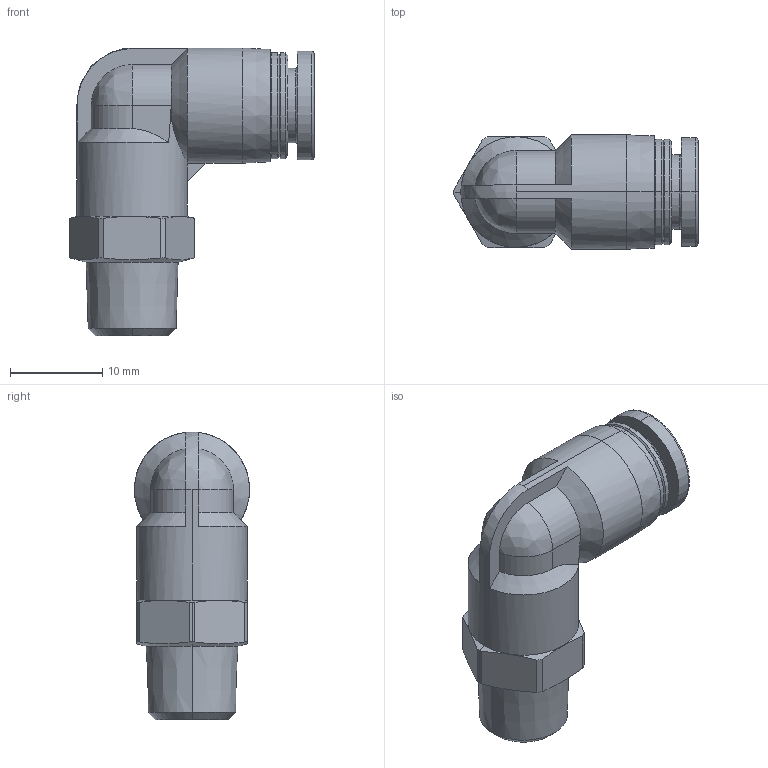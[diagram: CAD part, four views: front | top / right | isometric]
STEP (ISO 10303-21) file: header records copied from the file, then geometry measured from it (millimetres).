
FILE_DESCRIPTION (( 'STEP AP214' ), '1' );
FILE_NAME ('KQ2L06-01AS.STEP', '2023-03-06T09:54:50', ( 'Windows User' ), ( 'P R C' ), 'SwSTEP 2.0', 'SolidWorks 2019', '' );
FILE_SCHEMA (( 'AUTOMOTIVE_DESIGN' ));
Length unit declared in the file: millimetre
Products named in the file (1): KQ2L06-01AS
Bounding box: 26.5 x 12.5 x 31.25 mm (x, y, z)
Volume: 3897.3 mm3; surface area: 2268 mm2
Topology: 1 solids, 1 shells, 81 faces, 192 edges, 118 vertices
Faces by surface type: cylinder 27, cone 25, plane 22, bspline 7
Entity records: 2869 total; most frequent: CARTESIAN_POINT 1022, ORIENTED_EDGE 384, DIRECTION 377, EDGE_CURVE 192, AXIS2_PLACEMENT_3D 154, VERTEX_POINT 118, EDGE_LOOP 86, ADVANCED_FACE 81
